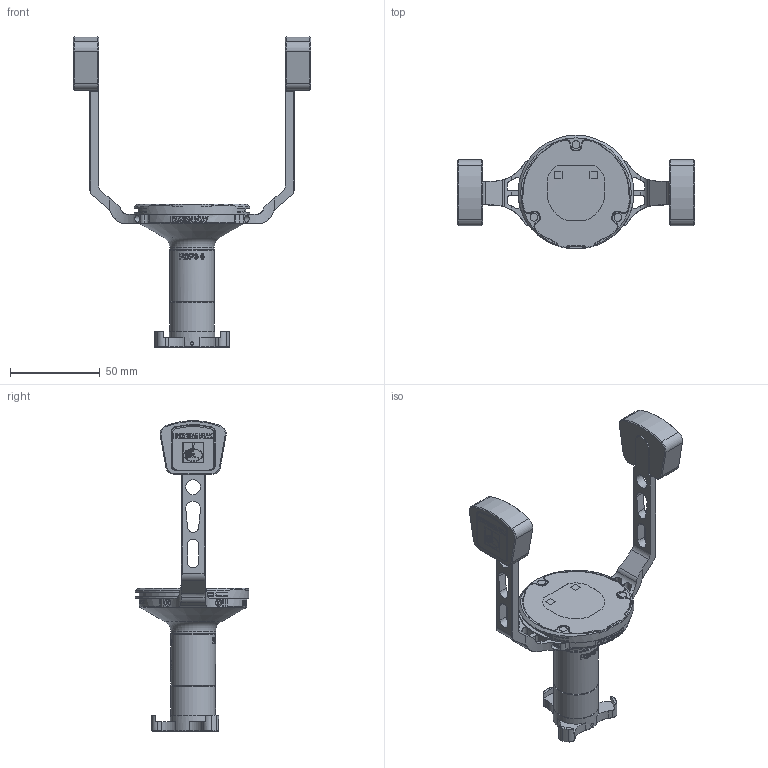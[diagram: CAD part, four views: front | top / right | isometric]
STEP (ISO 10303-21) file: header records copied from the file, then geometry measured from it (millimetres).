
FILE_DESCRIPTION(/* description */ (''),/* implementation_level */ '2;1');
FILE_NAME(/* name */ 'LA-6084-0100-B.stp',/* time_stamp */ '2018-03-27T08:54:49+01:00',/* author */ (''),/* organization */ (''),/* preprocessor_version */ 'ST-DEVELOPER v16',/* originating_system */ 'SIEMENS PLM Software NX 10.0',/* authorisation */ '');
FILE_SCHEMA (('AUTOMOTIVE_DESIGN { 1 0 10303 214 3 1 1 1 }'));
Length unit declared in the file: millimetre
Products named in the file (1): LA-6084-0100_B
Bounding box: 132.14 x 63.36 x 172.92 mm (x, y, z)
Surface area: 30570 mm2 (no closed solid volume)
Topology: 0 solids, 1 shells, 714 faces, 2518 edges, 1934 vertices
Faces by surface type: cylinder 392, plane 241, cone 69, extrusion 7, torus 5
Full cylindrical faces by diameter (mm): 2.3 x4, 3.15 x1, 4.1 x4, 8.2 x2, 24.1 x2, 25 x3, 25.3 x1, 60 x1
Entity records: 32904 total; most frequent: CARTESIAN_POINT 10257, ORIENTED_EDGE 4938, DIRECTION 3465, EDGE_CURVE 2469, VERTEX_POINT 1922, AXIS2_PLACEMENT_3D 1357, B_SPLINE_CURVE_WITH_KNOTS 1071, EDGE_LOOP 898
